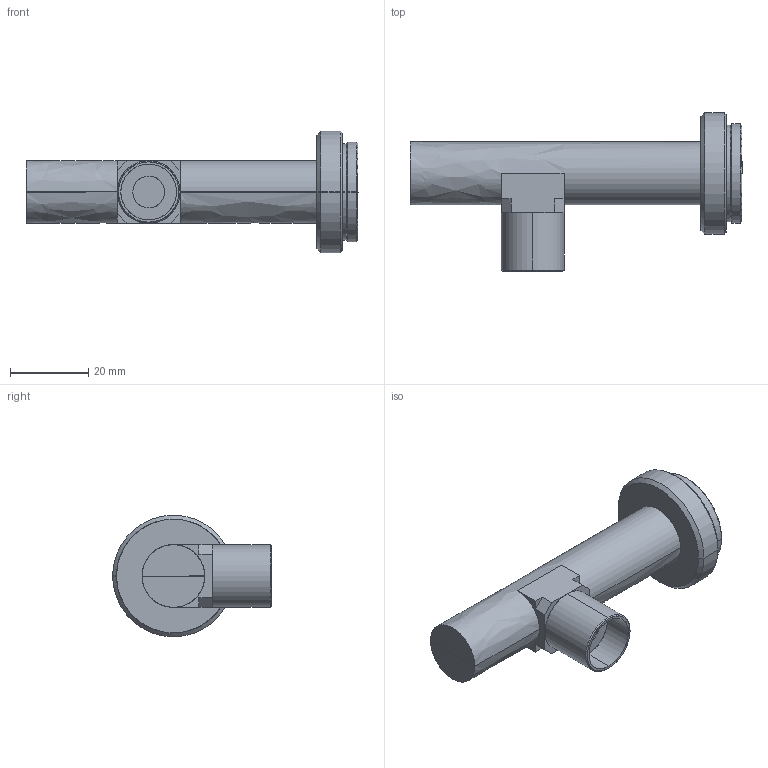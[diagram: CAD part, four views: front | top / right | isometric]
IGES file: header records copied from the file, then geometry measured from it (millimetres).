
Start section: SolidWorks IGES file using analytic representation for surfaces
Global section: file name: C:\Users\tsuji_vst\Documents\【作業フォルダ】\【3D】\00 VST\VS-TC\VS-TC6-65CO\VS-TC6-65CO.IGS; native system: SolidWorks 2018; preprocessor: SolidWorks 2018; author: tsuji_vst; date: 181128.114406; units: millimetre
Bounding box: 84.7 x 40.5 x 31 mm (x, y, z)
Surface area: 7669.6 mm2 (no closed solid volume)
Topology: 0 solids, 0 shells, 50 faces, 623 edges, 619 vertices
Faces by surface type: revolution 28, bspline 22
